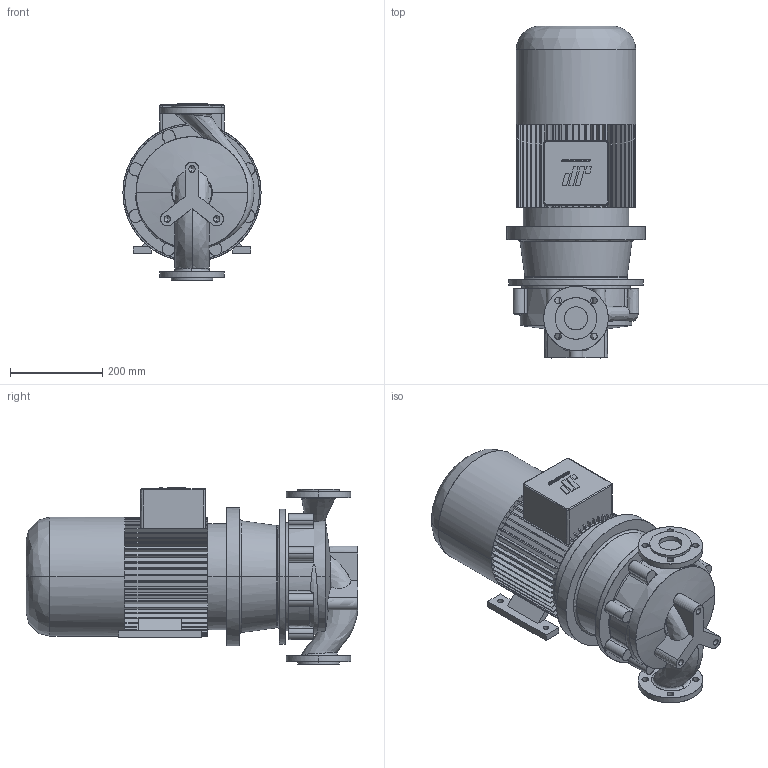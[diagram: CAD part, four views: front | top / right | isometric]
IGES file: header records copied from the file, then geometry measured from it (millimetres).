
Start section: CombiLine
Global section: file name: CLB_50-200_IEC132S.igs; native system:  By UGS Corp.; preprocessor: XPlus GENERIC/IGES 3.0; author: Stageplaats; organization: Johnson Pump Water B.V.; date: 20070713.131408; units: millimetre
Bounding box: 300 x 720.5 x 383 mm (x, y, z)
Surface area: 1177647.2 mm2 (no closed solid volume)
Topology: 0 solids, 0 shells, 580 faces, 3520 edges, 3514 vertices
Faces by surface type: bspline 580
